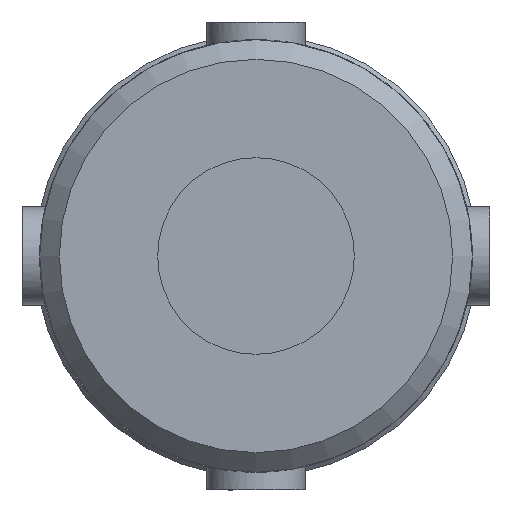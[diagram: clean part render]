
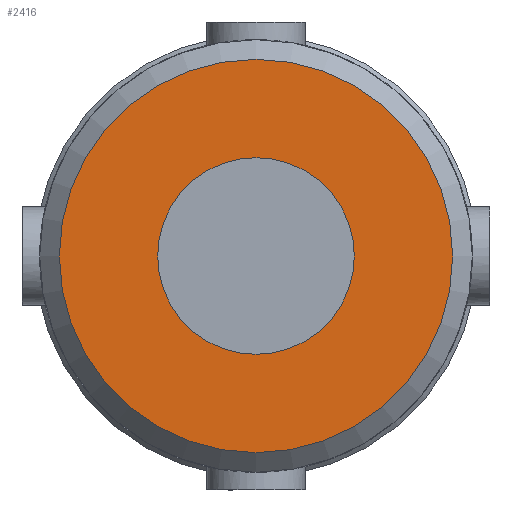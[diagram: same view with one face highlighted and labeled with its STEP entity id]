
A CAD part, left-side view. The second image highlights one B-rep face of the part: STEP entity #2416.
In plain terms, the highlighted planar face has unit normal (-1, 0, 0) as drawn and (0, -1, 0) by its records, which use the part's own axes.
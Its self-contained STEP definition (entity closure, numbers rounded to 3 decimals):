
#496=PLANE('',#2668);
#546=FACE_BOUND('',#856,.T.);
#673=FACE_OUTER_BOUND('',#855,.T.);
#855=EDGE_LOOP('',(#2152));
#856=EDGE_LOOP('',(#2153));
#981=CIRCLE('',#2663,5.);
#983=CIRCLE('',#2666,10.);
#1199=VERTEX_POINT('',#4489);
#1201=VERTEX_POINT('',#4494);
#1520=EDGE_CURVE('',#1199,#1199,#981,.T.);
#1522=EDGE_CURVE('',#1201,#1201,#983,.T.);
#2152=ORIENTED_EDGE('',*,*,#1522,.F.);
#2153=ORIENTED_EDGE('',*,*,#1520,.T.);
#2416=ADVANCED_FACE('',(#673,#546),#496,.F.);
#2663=AXIS2_PLACEMENT_3D('',#4490,#3286,#3287);
#2666=AXIS2_PLACEMENT_3D('',#4495,#3292,#3293);
#2668=AXIS2_PLACEMENT_3D('',#4663,#3300,#3301);
#3286=DIRECTION('center_axis',(0.,1.,0.));
#3287=DIRECTION('ref_axis',(-1.,0.,0.));
#3292=DIRECTION('center_axis',(0.,1.,0.));
#3293=DIRECTION('ref_axis',(1.,0.,0.));
#3300=DIRECTION('center_axis',(0.,1.,0.));
#3301=DIRECTION('ref_axis',(0.,0.,1.));
#4489=CARTESIAN_POINT('',(5.,-29.5,0.));
#4490=CARTESIAN_POINT('Origin',(0.,-29.5,0.));
#4494=CARTESIAN_POINT('',(-10.,-29.5,0.));
#4495=CARTESIAN_POINT('Origin',(0.,-29.5,0.));
#4663=CARTESIAN_POINT('Origin',(0.,-29.5,0.));
